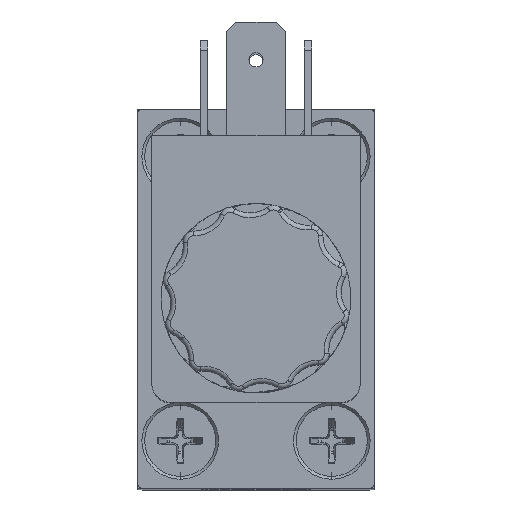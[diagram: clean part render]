
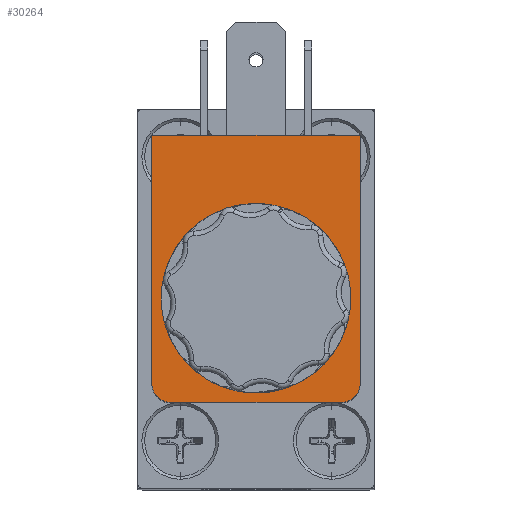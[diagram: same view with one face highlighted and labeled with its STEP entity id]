
A CAD part, top view. The second image highlights one B-rep face of the part: STEP entity #30264.
In plain terms, the highlighted planar face has unit normal (0, 0, 1).
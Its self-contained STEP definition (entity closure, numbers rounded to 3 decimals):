
#191 = ORIENTED_EDGE ( 'NONE', *, *, #34800, .F. ) ;
#192 = ORIENTED_EDGE ( 'NONE', *, *, #34803, .F. ) ;
#193 = ORIENTED_EDGE ( 'NONE', *, *, #31975, .F. ) ;
#194 = ORIENTED_EDGE ( 'NONE', *, *, #34808, .F. ) ;
#195 = ORIENTED_EDGE ( 'NONE', *, *, #34811, .F. ) ;
#196 = ORIENTED_EDGE ( 'NONE', *, *, #34813, .F. ) ;
#197 = ORIENTED_EDGE ( 'NONE', *, *, #34806, .F. ) ;
#198 = ORIENTED_EDGE ( 'NONE', *, *, #31972, .F. ) ;
#199 = ORIENTED_EDGE ( 'NONE', *, *, #34787, .T. ) ;
#200 = ORIENTED_EDGE ( 'NONE', *, *, #31986, .T. ) ;
#2829 = EDGE_LOOP ( 'NONE', ( #199, #200 ) ) ;
#2834 = EDGE_LOOP ( 'NONE', ( #191, #192, #193, #194, #195, #196, #197, #198 ) ) ;
#19771 = AXIS2_PLACEMENT_3D ( 'NONE', #21721, #21733, #21734 ) ;
#21721 = CARTESIAN_POINT ( 'NONE',  ( 0., -3.1, 30.5 ) ) ;
#21725 = PLANE ( 'NONE',  #19771 ) ;
#21733 = DIRECTION ( 'NONE',  ( 0., 0., 1. ) ) ;
#21734 = DIRECTION ( 'NONE',  ( 0.707, 0.707, 0. ) ) ;
#21800 = CARTESIAN_POINT ( 'NONE',  ( 9., 11., 30.5 ) ) ;
#21824 = CARTESIAN_POINT ( 'NONE',  ( -11., 9., 30.5 ) ) ;
#21825 = CARTESIAN_POINT ( 'NONE',  ( -11., -17.2, 30.5 ) ) ;
#21853 = CARTESIAN_POINT ( 'NONE',  ( -8.3, 0., 30.5 ) ) ;
#21854 = CARTESIAN_POINT ( 'NONE',  ( 8.3, 0., 30.5 ) ) ;
#21855 = CARTESIAN_POINT ( 'NONE',  ( 11., 9., 30.5 ) ) ;
#21856 = CARTESIAN_POINT ( 'NONE',  ( 10.414, 10.414, 30.5 ) ) ;
#21859 = CARTESIAN_POINT ( 'NONE',  ( -9., 11., 30.5 ) ) ;
#21860 = CARTESIAN_POINT ( 'NONE',  ( -10.414, 10.414, 30.5 ) ) ;
#21869 = CARTESIAN_POINT ( 'NONE',  ( 11., -17.2, 30.5 ) ) ;
#22199 = FACE_OUTER_BOUND ( 'NONE', #2834, .T. ) ;
#22208 = FACE_BOUND ( 'NONE', #2829, .T. ) ;
#26381 = CIRCLE ( 'NONE', #27875, 2. ) ;
#26385 = CIRCLE ( 'NONE', #27878, 2. ) ;
#26401 = CIRCLE ( 'NONE', #27880, 8.3 ) ;
#26534 = CIRCLE ( 'NONE', #27895, 8.3 ) ;
#26549 = LINE ( 'NONE', #28138, #26557 ) ;
#26554 = CIRCLE ( 'NONE', #27902, 2. ) ;
#26557 = VECTOR ( 'NONE', #28142, 1000. ) ;
#26558 = LINE ( 'NONE', #28145, #26561 ) ;
#26561 = VECTOR ( 'NONE', #28149, 1000. ) ;
#26566 = CIRCLE ( 'NONE', #27905, 2. ) ;
#26569 = LINE ( 'NONE', #28158, #26570 ) ;
#26570 = VECTOR ( 'NONE', #28159, 1000. ) ;
#26573 = LINE ( 'NONE', #28162, #26574 ) ;
#26574 = VECTOR ( 'NONE', #28163, 1000. ) ;
#27753 = CARTESIAN_POINT ( 'NONE',  ( 9., 9., 30.5 ) ) ;
#27757 = DIRECTION ( 'NONE',  ( 0., 0., -1. ) ) ;
#27758 = DIRECTION ( 'NONE',  ( 0.707, 0.707, 0. ) ) ;
#27765 = CARTESIAN_POINT ( 'NONE',  ( -9., 9., 30.5 ) ) ;
#27766 = DIRECTION ( 'NONE',  ( 0., 0., -1. ) ) ;
#27767 = DIRECTION ( 'NONE',  ( -0.707, 0.707, 0. ) ) ;
#27792 = CARTESIAN_POINT ( 'NONE',  ( 0., 0., 30.5 ) ) ;
#27793 = DIRECTION ( 'NONE',  ( 0., 0., -1. ) ) ;
#27794 = DIRECTION ( 'NONE',  ( -1., 0., 0. ) ) ;
#27875 = AXIS2_PLACEMENT_3D ( 'NONE', #27753, #27757, #27758 ) ;
#27878 = AXIS2_PLACEMENT_3D ( 'NONE', #27765, #27766, #27767 ) ;
#27880 = AXIS2_PLACEMENT_3D ( 'NONE', #27792, #27793, #27794 ) ;
#27895 = AXIS2_PLACEMENT_3D ( 'NONE', #28101, #28103, #28104 ) ;
#27902 = AXIS2_PLACEMENT_3D ( 'NONE', #28127, #28134, #28135 ) ;
#27905 = AXIS2_PLACEMENT_3D ( 'NONE', #28146, #28152, #28153 ) ;
#28101 = CARTESIAN_POINT ( 'NONE',  ( 0., 0., 30.5 ) ) ;
#28103 = DIRECTION ( 'NONE',  ( 0., 0., -1. ) ) ;
#28104 = DIRECTION ( 'NONE',  ( -1., 0., 0. ) ) ;
#28127 = CARTESIAN_POINT ( 'NONE',  ( 9., 9., 30.5 ) ) ;
#28134 = DIRECTION ( 'NONE',  ( 0., 0., -1. ) ) ;
#28135 = DIRECTION ( 'NONE',  ( 0.707, 0.707, 0. ) ) ;
#28138 = CARTESIAN_POINT ( 'NONE',  ( -9., 11., 30.5 ) ) ;
#28142 = DIRECTION ( 'NONE',  ( 1., 0., 0. ) ) ;
#28145 = CARTESIAN_POINT ( 'NONE',  ( 11., 9., 30.5 ) ) ;
#28146 = CARTESIAN_POINT ( 'NONE',  ( -9., 9., 30.5 ) ) ;
#28149 = DIRECTION ( 'NONE',  ( 0., -1., 0. ) ) ;
#28152 = DIRECTION ( 'NONE',  ( 0., 0., -1. ) ) ;
#28153 = DIRECTION ( 'NONE',  ( -0.707, 0.707, 0. ) ) ;
#28158 = CARTESIAN_POINT ( 'NONE',  ( -11., -17.2, 30.5 ) ) ;
#28159 = DIRECTION ( 'NONE',  ( 0., 1., 0. ) ) ;
#28162 = CARTESIAN_POINT ( 'NONE',  ( 11., -17.2, 30.5 ) ) ;
#28163 = DIRECTION ( 'NONE',  ( -1., 0., 0. ) ) ;
#30264 = ADVANCED_FACE ( 'NONE', ( #22199, #22208 ), #21725, .T. ) ;
#30611 = VERTEX_POINT ( 'NONE', #21800 ) ;
#30635 = VERTEX_POINT ( 'NONE', #21824 ) ;
#30636 = VERTEX_POINT ( 'NONE', #21825 ) ;
#30664 = VERTEX_POINT ( 'NONE', #21853 ) ;
#30665 = VERTEX_POINT ( 'NONE', #21854 ) ;
#30666 = VERTEX_POINT ( 'NONE', #21855 ) ;
#30667 = VERTEX_POINT ( 'NONE', #21856 ) ;
#30670 = VERTEX_POINT ( 'NONE', #21859 ) ;
#30671 = VERTEX_POINT ( 'NONE', #21860 ) ;
#30680 = VERTEX_POINT ( 'NONE', #21869 ) ;
#31972 = EDGE_CURVE ( 'NONE', #30667, #30666, #26381, .T. ) ;
#31975 = EDGE_CURVE ( 'NONE', #30671, #30670, #26385, .T. ) ;
#31986 = EDGE_CURVE ( 'NONE', #30665, #30664, #26401, .T. ) ;
#34787 = EDGE_CURVE ( 'NONE', #30664, #30665, #26534, .T. ) ;
#34800 = EDGE_CURVE ( 'NONE', #30611, #30667, #26554, .T. ) ;
#34803 = EDGE_CURVE ( 'NONE', #30670, #30611, #26549, .T. ) ;
#34806 = EDGE_CURVE ( 'NONE', #30666, #30680, #26558, .T. ) ;
#34808 = EDGE_CURVE ( 'NONE', #30635, #30671, #26566, .T. ) ;
#34811 = EDGE_CURVE ( 'NONE', #30636, #30635, #26569, .T. ) ;
#34813 = EDGE_CURVE ( 'NONE', #30680, #30636, #26573, .T. ) ;
